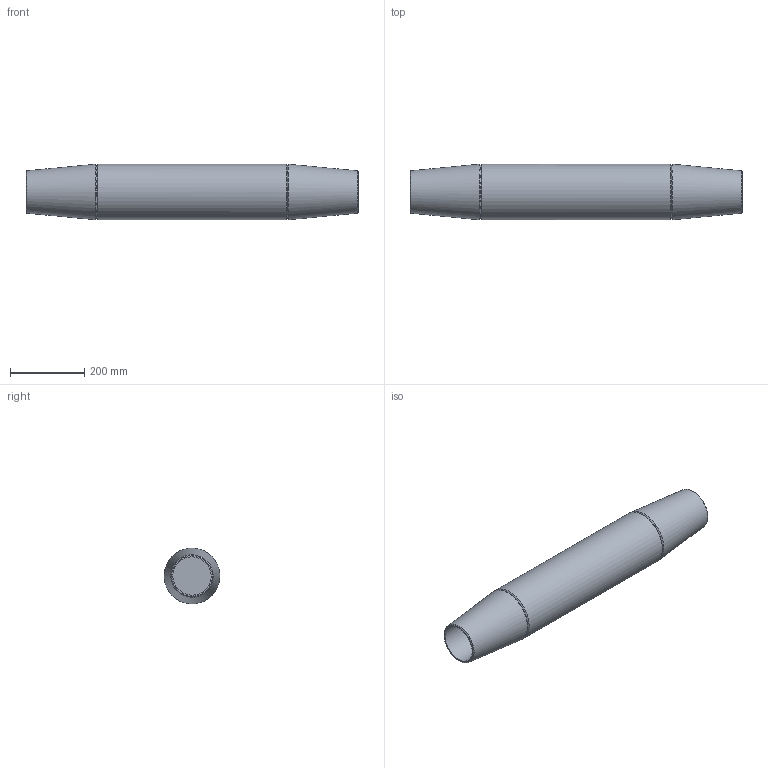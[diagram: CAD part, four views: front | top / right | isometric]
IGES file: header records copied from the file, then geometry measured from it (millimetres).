
Global section: file name: 520-100-MUF; native system: Autodesk Inventor 2016; preprocessor: unknown; author: Administrator; date: 20200630.132418; units: centimetre
Bounding box: 892 x 150 x 149.69 mm (x, y, z)
Volume: 11919017.3 mm3; surface area: 511462.6 mm2
Topology: 1 solids, 1 shells, 15 faces, 35 edges, 24 vertices
Faces by surface type: bspline 15
